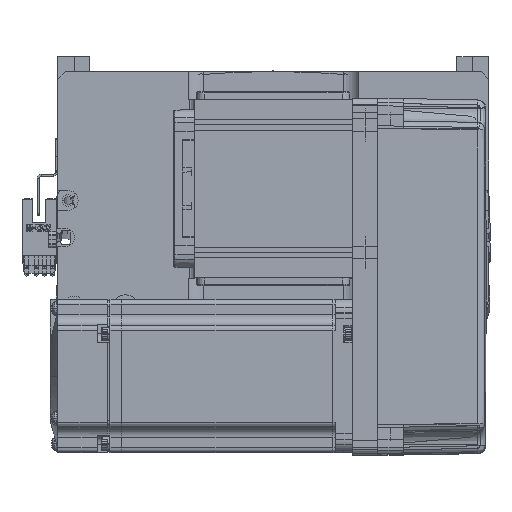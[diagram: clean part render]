
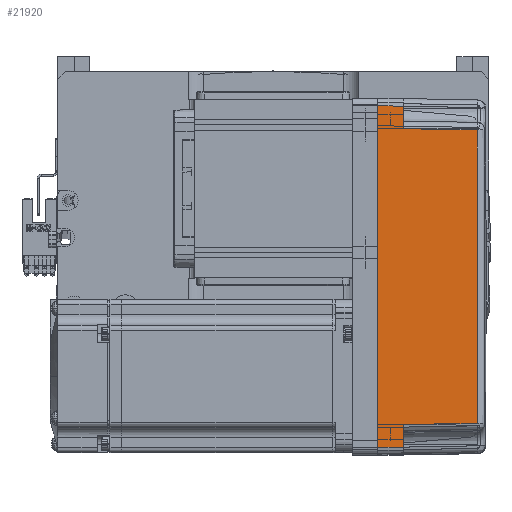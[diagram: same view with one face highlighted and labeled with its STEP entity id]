
A CAD part, top view. The second image highlights one B-rep face of the part: STEP entity #21920.
In plain terms, the highlighted planar face has unit normal (0.018, 0, 1) as drawn and (0, 1, 0.017) by its records, which use the part's own axes.
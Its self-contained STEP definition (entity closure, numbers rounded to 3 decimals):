
#515 = LINE ( 'NONE', #57480, #65998 ) ;
#788 = VERTEX_POINT ( 'NONE', #28346 ) ;
#3015 = LINE ( 'NONE', #38940, #55581 ) ;
#3062 = CARTESIAN_POINT ( 'NONE',  ( -57.495, 35.32, 38.985 ) ) ;
#4355 = DIRECTION ( 'NONE',  ( 0., -0.017, 1. ) ) ;
#4892 = EDGE_CURVE ( 'NONE', #43654, #788, #34806, .T. ) ;
#4981 = CARTESIAN_POINT ( 'NONE',  ( -67., 36., 0. ) ) ;
#4995 = ORIENTED_EDGE ( 'NONE', *, *, #45785, .T. ) ;
#6498 = VERTEX_POINT ( 'NONE', #29784 ) ;
#11779 = EDGE_LOOP ( 'NONE', ( #4995, #53712, #14022, #47753, #12215, #65261, #14792, #43837 ) ) ;
#11814 = LINE ( 'NONE', #4981, #65173 ) ;
#12215 = ORIENTED_EDGE ( 'NONE', *, *, #30184, .T. ) ;
#13989 = CARTESIAN_POINT ( 'NONE',  ( 70., 35.825, 10. ) ) ;
#14022 = ORIENTED_EDGE ( 'NONE', *, *, #40501, .T. ) ;
#14792 = ORIENTED_EDGE ( 'NONE', *, *, #22967, .F. ) ;
#15105 = DIRECTION ( 'NONE',  ( 0.017, 0.017, -1. ) ) ;
#17435 = VECTOR ( 'NONE', #15105, 1000. ) ;
#21920 = ADVANCED_FACE ( 'NONE', ( #39024 ), #66277, .T. ) ;
#22079 = EDGE_CURVE ( 'NONE', #30554, #37310, #27658, .T. ) ;
#22967 = EDGE_CURVE ( 'NONE', #41925, #788, #29055, .T. ) ;
#23555 = DIRECTION ( 'NONE',  ( 1., 0., 0. ) ) ;
#23626 = VERTEX_POINT ( 'NONE', #64398 ) ;
#24271 = EDGE_CURVE ( 'NONE', #6498, #23626, #3015, .T. ) ;
#27658 = B_SPLINE_CURVE_WITH_KNOTS ( 'NONE', 3,
 ( #31020, #52521, #62867, #42362 ),
 .UNSPECIFIED., .F., .F.,
 ( 4, 4 ),
 ( 0., 1. ),
 .UNSPECIFIED. ) ;
#28346 = CARTESIAN_POINT ( 'NONE',  ( 66.826, 35.825, 10. ) ) ;
#29055 = LINE ( 'NONE', #39033, #42911 ) ;
#29784 = CARTESIAN_POINT ( 'NONE',  ( -66.826, 35.825, 10. ) ) ;
#30184 = EDGE_CURVE ( 'NONE', #37310, #43654, #49022, .T. ) ;
#30237 = CARTESIAN_POINT ( 'NONE',  ( 57.495, 35.32, 38.985 ) ) ;
#30554 = VERTEX_POINT ( 'NONE', #3062 ) ;
#31020 = CARTESIAN_POINT ( 'NONE',  ( -57.495, 35.32, 38.985 ) ) ;
#34806 = LINE ( 'NONE', #13989, #63107 ) ;
#34986 = CARTESIAN_POINT ( 'NONE',  ( 57.495, 35.32, 38.985 ) ) ;
#35309 = DIRECTION ( 'NONE',  ( 0., 1., 0.017 ) ) ;
#36567 = EDGE_CURVE ( 'NONE', #39203, #41925, #515, .T. ) ;
#36688 = LINE ( 'NONE', #36764, #53733 ) ;
#36764 = CARTESIAN_POINT ( 'NONE',  ( -58., 35.825, 10. ) ) ;
#37310 = VERTEX_POINT ( 'NONE', #30237 ) ;
#38561 = CARTESIAN_POINT ( 'NONE',  ( 67., 36., 0. ) ) ;
#38940 = CARTESIAN_POINT ( 'NONE',  ( 70., 35.825, 10. ) ) ;
#39024 = FACE_OUTER_BOUND ( 'NONE', #11779, .T. ) ;
#39033 = CARTESIAN_POINT ( 'NONE',  ( 67.001, 36.001, -0.052 ) ) ;
#39203 = VERTEX_POINT ( 'NONE', #54621 ) ;
#40501 = EDGE_CURVE ( 'NONE', #23626, #30554, #36688, .T. ) ;
#41925 = VERTEX_POINT ( 'NONE', #38561 ) ;
#42031 = DIRECTION ( 'NONE',  ( 0.017, -0.017, 1. ) ) ;
#42362 = CARTESIAN_POINT ( 'NONE',  ( 57.495, 35.32, 38.985 ) ) ;
#42911 = VECTOR ( 'NONE', #54630, 1000. ) ;
#43654 = VERTEX_POINT ( 'NONE', #55867 ) ;
#43837 = ORIENTED_EDGE ( 'NONE', *, *, #36567, .F. ) ;
#45785 = EDGE_CURVE ( 'NONE', #39203, #6498, #11814, .T. ) ;
#46881 = DIRECTION ( 'NONE',  ( 1., 0., 0. ) ) ;
#47753 = ORIENTED_EDGE ( 'NONE', *, *, #22079, .T. ) ;
#49022 = LINE ( 'NONE', #34986, #17435 ) ;
#50709 = CARTESIAN_POINT ( 'NONE',  ( 70., 36., 0. ) ) ;
#51034 = AXIS2_PLACEMENT_3D ( 'NONE', #50709, #35309, #4355 ) ;
#52521 = CARTESIAN_POINT ( 'NONE',  ( -19.165, 35.316, 39.181 ) ) ;
#53712 = ORIENTED_EDGE ( 'NONE', *, *, #24271, .T. ) ;
#53733 = VECTOR ( 'NONE', #42031, 1000. ) ;
#54621 = CARTESIAN_POINT ( 'NONE',  ( -67., 36., 0. ) ) ;
#54630 = DIRECTION ( 'NONE',  ( -0.017, -0.017, 1. ) ) ;
#55581 = VECTOR ( 'NONE', #23555, 1000. ) ;
#55867 = CARTESIAN_POINT ( 'NONE',  ( 58., 35.825, 10. ) ) ;
#57480 = CARTESIAN_POINT ( 'NONE',  ( 0., 36., 0. ) ) ;
#60567 = DIRECTION ( 'NONE',  ( 1., 0., 0. ) ) ;
#61744 = DIRECTION ( 'NONE',  ( 0.017, -0.017, 1. ) ) ;
#62867 = CARTESIAN_POINT ( 'NONE',  ( 19.165, 35.316, 39.181 ) ) ;
#63107 = VECTOR ( 'NONE', #60567, 1000. ) ;
#64398 = CARTESIAN_POINT ( 'NONE',  ( -58., 35.825, 10. ) ) ;
#65173 = VECTOR ( 'NONE', #61744, 1000. ) ;
#65261 = ORIENTED_EDGE ( 'NONE', *, *, #4892, .T. ) ;
#65998 = VECTOR ( 'NONE', #46881, 1000. ) ;
#66277 = PLANE ( 'NONE',  #51034 ) ;
